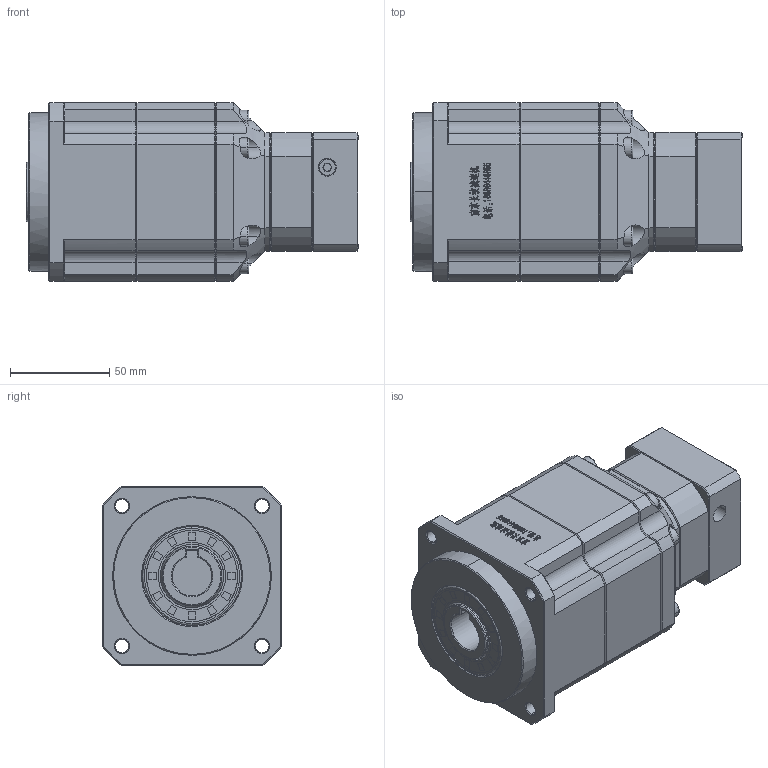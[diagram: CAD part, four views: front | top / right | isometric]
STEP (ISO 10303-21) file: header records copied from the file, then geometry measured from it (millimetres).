
FILE_DESCRIPTION (( 'STEP AP214' ), '1' );
FILE_NAME ('ZPB090-K20-L3-P1-11-50-70-M4.step', '2024-06-07T18:27:18', ( 'Windows 蚚誧' ), ( 'Organization' ), 'SwSTEP 2.0', 'SolidWorks 2016', '' );
FILE_SCHEMA (( 'AUTOMOTIVE_DESIGN' ));
Length unit declared in the file: millimetre
Products named in the file (1): ZPB090-K20-L3-P1-11-50-70-M4
Bounding box: 167.5 x 90 x 90 mm (x, y, z)
Surface area: 79343.1 mm2 (no closed solid volume)
Topology: 0 solids, 32 shells, 2131 faces, 5589 edges, 3524 vertices
Faces by surface type: plane 1114, bspline 376, cone 323, cylinder 296, torus 22
Entity records: 99084 total; most frequent: CARTESIAN_POINT 45834, ORIENTED_EDGE 11142, DIRECTION 8423, EDGE_CURVE 5589, VERTEX_POINT 3524, VECTOR 3269, LINE 3269, AXIS2_PLACEMENT_3D 2577
